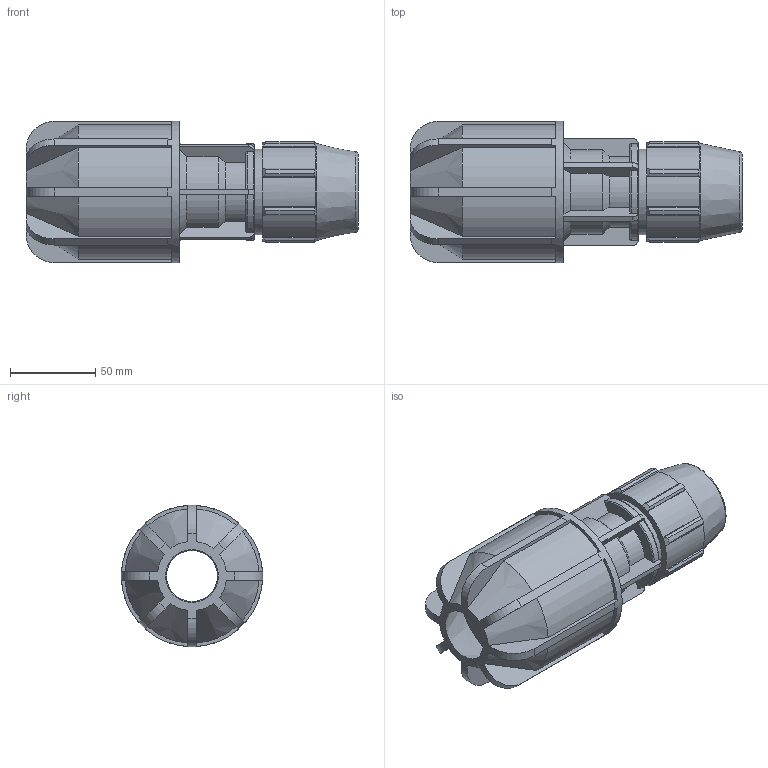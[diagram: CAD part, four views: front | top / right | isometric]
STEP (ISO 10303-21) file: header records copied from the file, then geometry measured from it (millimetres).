
FILE_DESCRIPTION(/* description */ ('PLASSON PLASS4 COUPLING 1'''' - 1.22'),/* implementation_level */ '2;1');
FILE_NAME(/* name */ 'C:\Dropbox\KIMPROJECTS-Inventor 2019\99-16-3568-Processing Inch\ASTM Compression 2021\070170M0\070170M10035.ipt.stp',/* time_stamp */ '2021-08-26T12:29:06+03:00',/* author */ ('KIM'),/* organization */ (''),/* preprocessor_version */ 'ST-DEVELOPER v17.2',/* originating_system */ 'Autodesk Inventor 2019',/* authorisation */ '');
FILE_SCHEMA (('AUTOMOTIVE_DESIGN { 1 0 10303 214 3 1 1 }'));
Length unit declared in the file: inch
Products named in the file (1): 070170M10035
Bounding box: 195.07 x 83.06 x 83.06 mm (x, y, z)
Volume: 405845.4 mm3; surface area: 85259 mm2
Topology: 1 solids, 1 shells, 220 faces, 639 edges, 426 vertices
Faces by surface type: plane 111, cylinder 61, cone 34, torus 14
Full cylindrical faces by diameter (mm): 29.97 x1, 33.3 x1, 38.089 x1, 50.394 x1, 83.058 x1
Entity records: 7688 total; most frequent: CARTESIAN_POINT 1646, ORIENTED_EDGE 1278, DIRECTION 1191, EDGE_CURVE 639, AXIS2_PLACEMENT_3D 427, VERTEX_POINT 426, LINE 337, VECTOR 337
